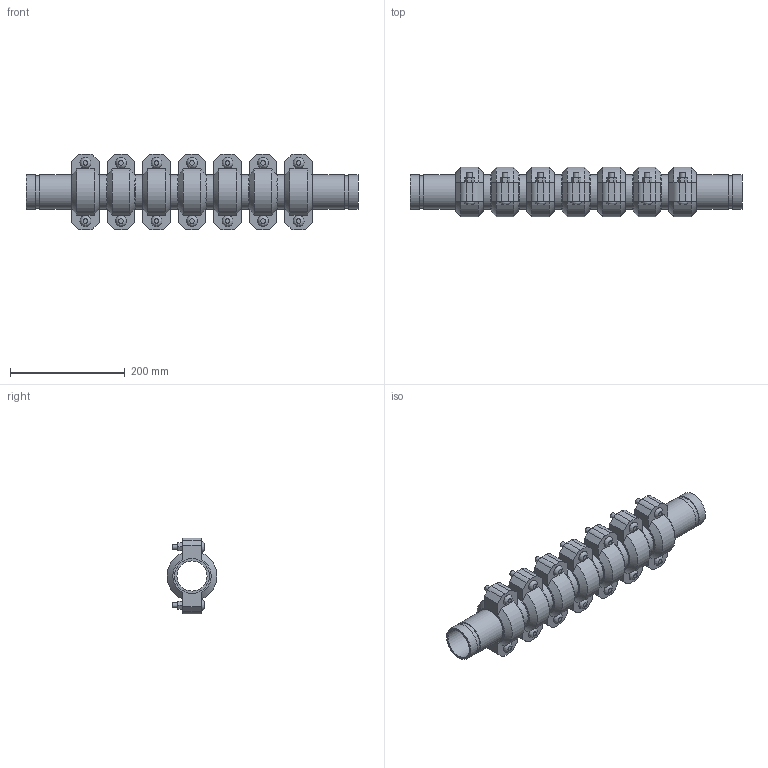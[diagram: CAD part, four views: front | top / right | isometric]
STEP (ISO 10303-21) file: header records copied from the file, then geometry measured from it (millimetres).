
FILE_DESCRIPTION(/* description */ ('VIC EXPANSION JOINT 7 COUPLINGS EXPANDED STYLE 155 (OGS)','CAx-IF Rec.Pracs.---Representation and Presentation of Product Manufacturing Information (PMI)---4.0---2014-10-13'),/* implementation_level */ '2;1');
FILE_NAME(/* name */ 'C:\Users\kkamble\AppData\Roaming\Autodesk\ApplicationPlugins\Victaulic.Temp\A179\Victaulic_IPS_Expansion Joint_Expanded_7 Couplings_Style 155 (OGS)_2 (50).stp',/* time_stamp */ '2021-06-27T00:06:35+02:00',/* author */ ('kkamble'),/* organization */ ('Victaulic'),/* preprocessor_version */ 'ST-DEVELOPER v17.2',/* originating_system */ 'Autodesk Inventor 2019',/* authorisation */ '');
FILE_SCHEMA (('AP242_MANAGED_MODEL_BASED_3D_ENGINEERING_MIM_LF { 1 0 10303 442 1 1 4 }'));
Length unit declared in the file: inch
Products named in the file (4): 155-02.0; Nipple-02.0; Nipple-02.0_1; 075-02.0
Assembly tree (15 placements, depth 2):
  155-02.0
    Nipple-02.0  x2
    Nipple-02.0_1  x6
    075-02.0  x7
Bounding box: 579.37 x 87.12 x 132.59 mm (x, y, z)
Volume: 1762988.4 mm3; surface area: 499609.7 mm2
Topology: 15 solids, 29 shells, 495 faces, 1171 edges, 822 vertices
Faces by surface type: plane 300, cylinder 153, cone 28, bspline 14
Full cylindrical faces by diameter (mm): 9.525 x28, 11.43 x14, 52.502 x8, 53.975 x7, 57.15 x16, 60.325 x38
Entity records: 2833 total; most frequent: CARTESIAN_POINT 499, DIRECTION 473, ORIENTED_EDGE 386, EDGE_CURVE 193, AXIS2_PLACEMENT_3D 190, VERTEX_POINT 138, EDGE_LOOP 107, LINE 93
